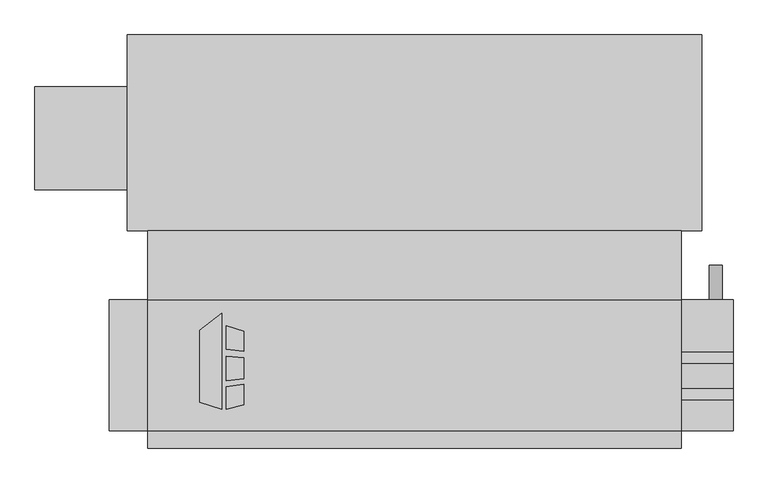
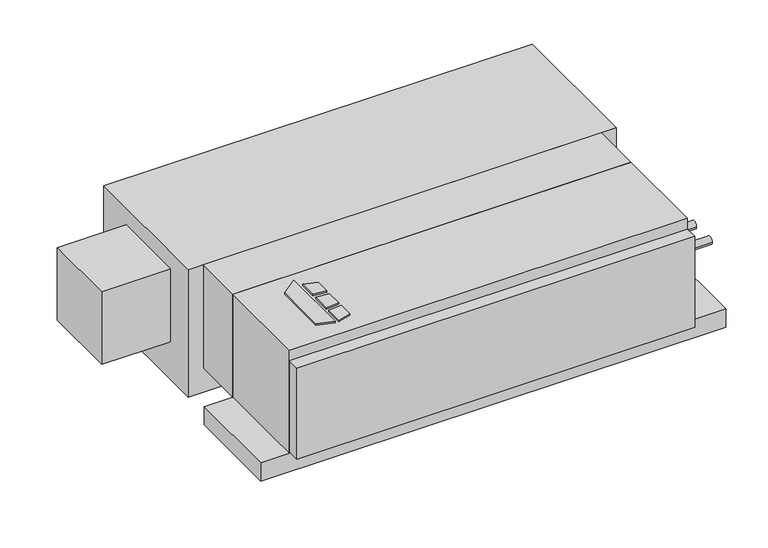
"""IFC4 building model written with IfcOpenShell, lengths in millimetres: proxy geometry, Concealed_Horizontal_Fan_Coil_Unit_With_Plenum_-_CPY_-_IEC_-_2-Pipe_Cool-EHeat_RH_2022 : Size 06 - 277v/60Hz/1Ph - 4 Row 6.0kW."""

from ifc_helpers import new_model, si_unit, point, frame, frame_2d, origin, origin_with_axes, place, context, project, spatial, polyline, circle_curve, trimmed, segment, composite_curve, outline, extrude, source, transform, mapped, element, save


def mechanical_equipment_d784f6c1(model_context):
    return source(origin(), model_context, "Body", "SweptSolid", [
        extrude(outline(polyline([(-165.1, -186.6953476), (-132.5417033, -161.2580184), (-132.5417033, -303.2125), (-165.1, -292.9929201), (-165.1, -186.6953476)])), origin_with_axes(), (0.0, 0.0, 1.0), 3.175),
        extrude(outline(polyline([(-125.7833703, -214.567352), (-125.7833703, -180.0874379), (-99.7019761, -188.2740115), (-99.7019761, -217.7697446), (-125.7833703, -214.567352)])), origin_with_axes(), (0.0, 0.0, 1.0), 3.175),
        extrude(outline(polyline([(-99.7019761, -296.2240115), (-125.7833703, -303.2125), (-125.7833703, -269.9911996), (-99.7019761, -266.4493564), (-99.7019761, -296.2240115)])), origin_with_axes(), (0.0, 0.0, 1.0), 3.175),
        extrude(outline(polyline([(-99.7019761, -226.8513277), (-99.7019761, -258.101483), (-125.7833703, -260.842748), (-125.7833703, -224.9850378), (-99.7019761, -226.8513277)])), origin_with_axes(), (0.0, 0.0, 1.0), 3.175),
        extrude(outline(composite_curve([segment(trimmed(circle_curve(frame_2d((-280.9875, -104.775)), 7.9375), [point((-273.05, -104.775))], [point((-288.925, -104.775))], False, "CARTESIAN"), True, "CONTINUOUS"), segment(trimmed(circle_curve(frame_2d((-280.9875, -104.775)), 7.9375), [point((-288.925, -104.775))], [point((-273.05, -104.775))], False, "CARTESIAN"), True, "CONTINUOUS")], self_intersect=False)), frame((546.1, 0.0, 0.0), z_axis=(1.0, 0.0, 0.0), x_axis=(0.0, 1.0, 0.0)), (0.0, 0.0, 1.0), 76.2),
        extrude(outline(composite_curve([segment(trimmed(circle_curve(frame_2d((-227.0125, -104.775)), 7.9375), [point((-219.075, -104.775))], [point((-234.95, -104.775))], False, "CARTESIAN"), True, "CONTINUOUS"), segment(trimmed(circle_curve(frame_2d((-227.0125, -104.775)), 7.9375), [point((-234.95, -104.775))], [point((-219.075, -104.775))], False, "CARTESIAN"), True, "CONTINUOUS")], self_intersect=False)), frame((546.1, 0.0, 0.0), z_axis=(1.0, 0.0, 0.0), x_axis=(0.0, 1.0, 0.0)), (0.0, 0.0, 1.0), 76.2),
        extrude(outline(composite_curve([segment(trimmed(circle_curve(frame_2d((-241.3, 596.9)), 9.525), [point((-241.3, 587.375))], [point((-241.3, 606.425))], False, "CARTESIAN"), True, "CONTINUOUS"), segment(trimmed(circle_curve(frame_2d((-241.3, 596.9)), 9.525), [point((-241.3, 606.425))], [point((-241.3, 587.375))], False, "CARTESIAN"), True, "CONTINUOUS")], self_intersect=False)), frame((0.0, -141.2875, 0.0), z_axis=(0.0, 1.0, 0.0), x_axis=(0.0, 0.0, 1.0)), (0.0, 0.0, 1.0), 50.8),
        extrude(outline(polyline([(-241.3, -39.6875), (546.1, -39.6875), (546.1, -141.2875), (-241.3, -141.2875), (-241.3, -39.6875)])), frame((0.0, 0.0, -215.9), z_axis=(0.0, 0.0, 1.0), x_axis=(1.0, 0.0, 0.0)), (0.0, 0.0, 1.0), 215.9),
        extrude(outline(polyline([(546.1, -360.3625), (-241.3, -360.3625), (-241.3, -334.9625), (546.1, -334.9625), (546.1, -360.3625)])), frame((0.0, 0.0, -212.725), z_axis=(0.0, 0.0, 1.0), x_axis=(1.0, 0.0, 0.0)), (0.0, 0.0, 1.0), 190.5),
        extrude(outline(polyline([(-407.9875, 20.6375), (-407.9875, 173.0375), (-271.4625, 173.0375), (-271.4625, 20.6375), (-407.9875, 20.6375)])), frame((0.0, 0.0, -187.325), z_axis=(0.0, 0.0, 1.0), x_axis=(1.0, 0.0, 0.0)), (0.0, 0.0, 1.0), 152.4),
        extrude(outline(polyline([(-271.4625, 249.2375), (576.2625, 249.2375), (576.2625, -39.6875), (-271.4625, -39.6875), (-271.4625, 249.2375)])), frame((0.0, 0.0, -266.7), z_axis=(0.0, 0.0, 1.0), x_axis=(1.0, 0.0, 0.0)), (0.0, 0.0, 1.0), 266.7),
        extrude(outline(polyline([(546.1, -141.2875), (546.1, -334.9625), (-241.3, -334.9625), (-241.3, -141.2875), (546.1, -141.2875)])), frame((0.0, 0.0, -215.9), z_axis=(0.0, 0.0, 1.0), x_axis=(1.0, 0.0, 0.0)), (0.0, 0.0, 1.0), 215.9),
        extrude(outline(polyline([(622.3, -141.2875), (622.3, -334.9625), (-298.45, -334.9625), (-298.45, -141.2875), (622.3, -141.2875)])), frame((0.0, 0.0, -254.0), z_axis=(0.0, 0.0, 1.0), x_axis=(1.0, 0.0, 0.0)), (0.0, 0.0, 1.0), 38.1),
    ])


if __name__ == "__main__":
    model = new_model("IFC4")
    model_context = context("Model", 3, world=origin())
    ifc_project = project(units=[si_unit("LENGTHUNIT", "METRE", prefix="MILLI")], contexts=[model_context])
    site = spatial("IfcSite", under=ifc_project)
    building = spatial("IfcBuilding", under=site)
    placement = place(None, origin())
    mechanical_equipment_shape = mechanical_equipment_d784f6c1(model_context)
    element("IfcBuildingElementProxy", 1, Name="Concealed_Horizontal_Fan_Coil_Unit_With_Plenum_-_CPY_-_IEC_-_2-Pipe_Cool-EHeat_RH_2022 : Size 06 - 277v/60Hz/1Ph - 4 Row 6.0kW", ObjectType="Concealed_Horizontal_Fan_Coil_Unit_With_Plenum_-_CPY_-_IEC_-_2-Pipe_Cool-EHeat_RH_2022 : Size 06 - 277v/60Hz/1Ph - 4 Row 6.0kW", at=placement, inside=building, context=model_context, shape_type="MappedRepresentation", body=[
        mapped(mechanical_equipment_shape, transform((0.0, 0.0, 0.0), x_axis=(1.0, 0.0, 0.0), y_axis=(0.0, 1.0, 0.0), z_axis=(0.0, 0.0, 1.0))),
    ])
    save(model, "model.ifc")
